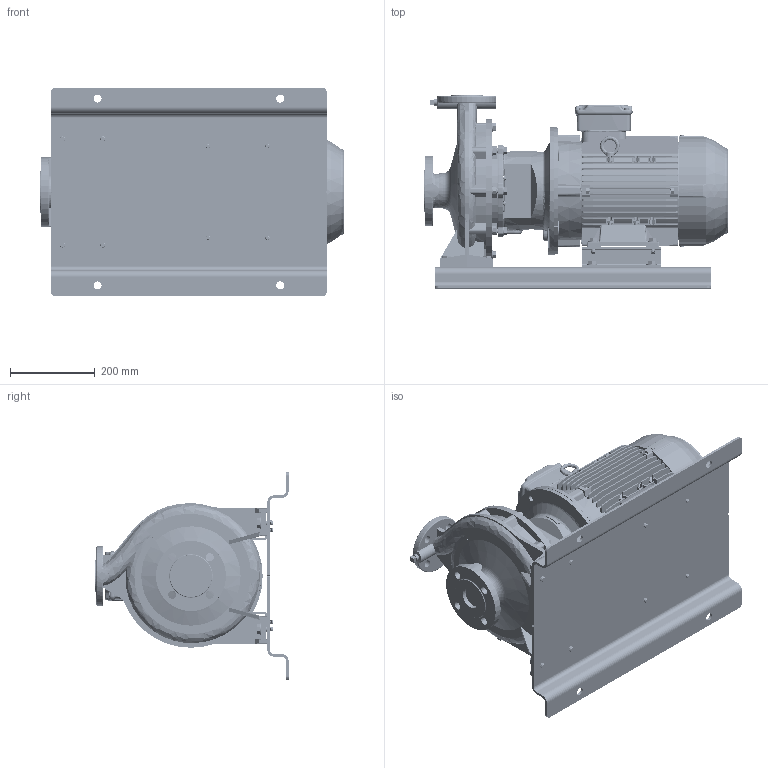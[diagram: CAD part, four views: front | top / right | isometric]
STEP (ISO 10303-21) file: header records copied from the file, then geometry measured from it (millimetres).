
FILE_DESCRIPTION (( 'STEP AP214' ), '1' );
FILE_NAME ('GSD2 32-250_7.5_(132S)_W21_BP.STEP', '2024-03-24T23:34:59', ( '' ), ( '' ), 'SwSTEP 2.0', 'SolidWorks 2019', '' );
FILE_SCHEMA (( 'AUTOMOTIVE_DESIGN' ));
Length unit declared in the file: millimetre
Products named in the file (22): Parametric bolt_SFT-A253B; Parametric bolt and washer_SFT-A299B; Parametric bolt and washer_SFT-A253B; Parametric bolt and washer_SFT-A249B; GSD2  32-250_7.5_(132S)_W21_BP; Parametric Flat Washer_M12; Parametric Flat Washer_M10; 140 x 48 - 271472022; 32-250-132S; Parametric bolt_SFT-A249B; 132S ALIE3_W21T_B35; N5S5 GSDA-559 F1-1832985-00; Parametric bolt_SFT-A299B
Assembly tree (41 placements, depth 3):
  GSD2  32-250_7.5_(132S)_W21_BP
    32-250-132S
    N5S5 GSDA-559 F1-1832985-00
    140 x 48 - 271472022  x2
    Parametric bolt and washer_SFT-A299B
      Parametric bolt_SFT-A299B
      Parametric Flat Washer_M12
    Parametric bolt and washer_SFT-A299B
      Parametric bolt_SFT-A299B
      Parametric Flat Washer_M12
    Parametric bolt and washer_SFT-A299B
      Parametric bolt_SFT-A299B
      Parametric Flat Washer_M12
    Parametric bolt and washer_SFT-A299B
      Parametric bolt_SFT-A299B
      Parametric Flat Washer_M12
    Parametric bolt and washer_SFT-A249B
      Parametric bolt_SFT-A249B
      Parametric Flat Washer_M10
    Parametric bolt and washer_SFT-A249B
      Parametric bolt_SFT-A249B
      Parametric Flat Washer_M10
    Parametric bolt and washer_SFT-A249B
      Parametric bolt_SFT-A249B
      Parametric Flat Washer_M10
    Parametric bolt and washer_SFT-A249B
      Parametric bolt_SFT-A249B
      Parametric Flat Washer_M10
    Parametric bolt and washer_SFT-A253B
      Parametric bolt_SFT-A253B
      Parametric Flat Washer_M10
    Parametric bolt and washer_SFT-A253B
      Parametric bolt_SFT-A253B
      Parametric Flat Washer_M10
    Parametric bolt and washer_SFT-A253B
      Parametric bolt_SFT-A253B
      Parametric Flat Washer_M10
    Parametric bolt and washer_SFT-A253B
      Parametric bolt_SFT-A253B
      Parametric Flat Washer_M10
    132S ALIE3_W21T_B35
Bounding box: 714.8 x 455 x 490 mm (x, y, z)
Volume: 31905803.6 mm3; surface area: 2760368.5 mm2
Topology: 46 solids, 46 shells, 5191 faces, 13511 edges, 8773 vertices
Faces by surface type: plane 3043, cylinder 1250, torus 304, cone 290, bspline 272, sphere 32
Entity records: 184428 total; most frequent: CARTESIAN_POINT 57150, ORIENTED_EDGE 24348, DIRECTION 22245, EDGE_CURVE 12174, VECTOR 7999, LINE 7999, VERTEX_POINT 7917, AXIS2_PLACEMENT_3D 7123
